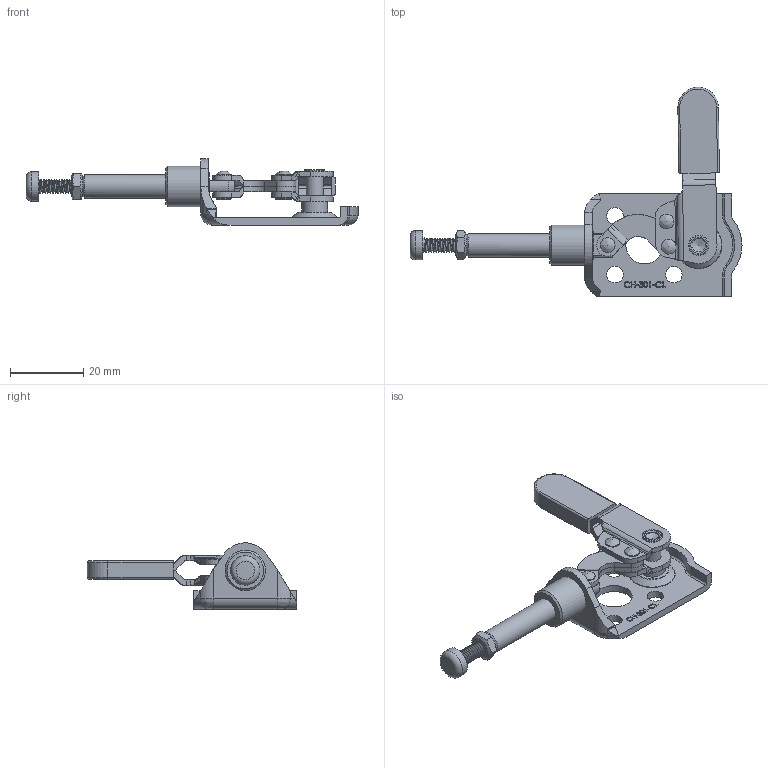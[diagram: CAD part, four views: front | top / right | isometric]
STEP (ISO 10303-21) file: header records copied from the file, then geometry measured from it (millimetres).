
FILE_DESCRIPTION(/* description */ ('STEP AP203'),/* implementation_level */ '2;1');
FILE_NAME(/* name */ 'D:\Vault_2016\Projekty\STRONA\Push-pull clamp\CH-301-CL\CH-301-CL_ZAMKNIETY.stp',/* time_stamp */ '2019-01-10T11:57:04+01:00',/* author */ ('user'),/* organization */ ('Î¢ÈíÖÐ¹ú'),/* preprocessor_version */ 'ST-DEVELOPER v17.2',/* originating_system */ 'Autodesk Inventor 2019',/* authorisation */ '');
FILE_SCHEMA (('AUTOMOTIVE_DESIGN { 1 0 10303 214 3 1 1 }'));
Length unit declared in the file: millimetre
Products named in the file (13): CH-301-CL_ZAMKNIETY; 042007; Ïú¶¤_Ä¬ÈÏ; ÊÖ±ú_Ä¬ÈÏ; Áã¼þ3_Ä¬ÈÏ; 042007-02; ½ºÌ×; ¶¥Öá_Ä¬ÈÏ; Á¬¸Ë2_Ä¬ÈÏ; ¸ôÌ×_Ä¬ÈÏ; ÊÖ±ú2_Ä¬ÈÏ; 6; Áã¼þ1_Ä¬ÈÏ
Assembly tree (14 placements, depth 2):
  CH-301-CL_ZAMKNIETY
    042007
    Ïú¶¤_Ä¬ÈÏ
    ÊÖ±ú_Ä¬ÈÏ
    Áã¼þ3_Ä¬ÈÏ
    6  x3
    042007-02
    ½ºÌ×
    ¶¥Öá_Ä¬ÈÏ
    Á¬¸Ë2_Ä¬ÈÏ
    ¸ôÌ×_Ä¬ÈÏ
    ÊÖ±ú2_Ä¬ÈÏ
    Áã¼þ1_Ä¬ÈÏ
Bounding box: 90.36 x 57 x 17.98 mm (x, y, z)
Volume: 7779.5 mm3; surface area: 10783.4 mm2
Topology: 14 solids, 14 shells, 419 faces, 1145 edges, 774 vertices
Faces by surface type: plane 183, cylinder 117, bspline 65, torus 32, cone 22
Full cylindrical faces by diameter (mm): 2.226 x3, 3 x11, 3.2 x2, 3.3 x1, 3.7 x1, 4 x6, 4.5 x4, 4.7 x1, 4.8 x4, 5.553 x1, 6.4 x2, 7 x1, 7.7 x1, 8 x2, 10.1 x1, 11 x1
Entity records: 22787 total; most frequent: CARTESIAN_POINT 12445, ORIENTED_EDGE 2138, DIRECTION 1964, EDGE_CURVE 1069, VERTEX_POINT 722, AXIS2_PLACEMENT_3D 713, LINE 538, VECTOR 538
